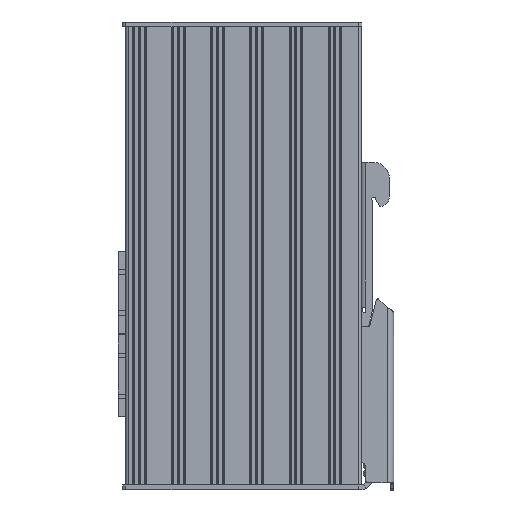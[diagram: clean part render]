
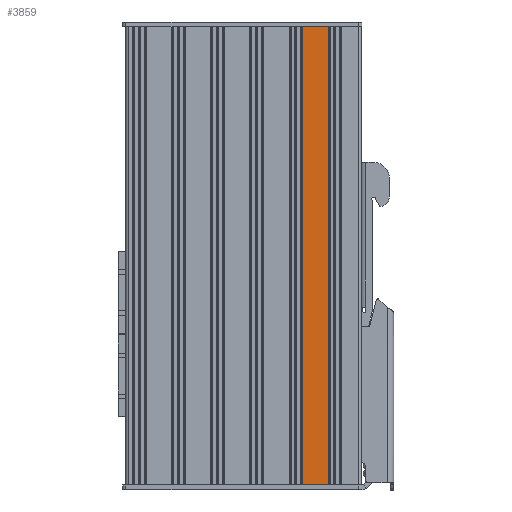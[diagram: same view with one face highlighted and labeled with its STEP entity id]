
A CAD part, left-side view. The second image highlights one B-rep face of the part: STEP entity #3859.
In plain terms, the highlighted planar face has unit normal (-1, 0, 0).
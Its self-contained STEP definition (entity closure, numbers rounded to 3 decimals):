
#3710=CARTESIAN_POINT('',(-12.25,-18.75,-71.));
#3711=VERTEX_POINT('',#3710);
#3718=CARTESIAN_POINT('',(-12.25,-18.75,71.));
#3719=VERTEX_POINT('',#3718);
#3720=CARTESIAN_POINT('',(-12.25,-18.75,71.));
#3721=DIRECTION('',(0.,0.,-1.));
#3722=VECTOR('',#3721,142.);
#3723=LINE('',#3720,#3722);
#3724=EDGE_CURVE('',#3719,#3711,#3723,.T.);
#3743=CARTESIAN_POINT('',(-12.25,-26.675,-71.));
#3744=VERTEX_POINT('',#3743);
#3759=CARTESIAN_POINT('',(-12.25,-26.675,71.));
#3760=VERTEX_POINT('',#3759);
#3767=CARTESIAN_POINT('',(-12.25,-26.675,71.));
#3768=DIRECTION('',(0.,0.,-1.));
#3769=VECTOR('',#3768,142.);
#3770=LINE('',#3767,#3769);
#3771=EDGE_CURVE('',#3760,#3744,#3770,.T.);
#3838=CARTESIAN_POINT('',(-12.25,36.15,71.));
#3839=DIRECTION('',(-1.,0.,0.));
#3840=DIRECTION('',(0.,0.,1.));
#3841=AXIS2_PLACEMENT_3D('',#3838,#3839,#3840);
#3842=PLANE('',#3841);
#3843=ORIENTED_EDGE('',*,*,#3771,.F.);
#3844=CARTESIAN_POINT('',(-12.25,-26.675,71.));
#3845=DIRECTION('',(0.,1.,0.));
#3846=VECTOR('',#3845,7.925);
#3847=LINE('',#3844,#3846);
#3848=EDGE_CURVE('',#3760,#3719,#3847,.T.);
#3849=ORIENTED_EDGE('',*,*,#3848,.T.);
#3850=ORIENTED_EDGE('',*,*,#3724,.T.);
#3851=CARTESIAN_POINT('',(-12.25,-26.675,-71.));
#3852=DIRECTION('',(0.,1.,0.));
#3853=VECTOR('',#3852,7.925);
#3854=LINE('',#3851,#3853);
#3855=EDGE_CURVE('',#3744,#3711,#3854,.T.);
#3856=ORIENTED_EDGE('',*,*,#3855,.F.);
#3857=EDGE_LOOP('',(#3843,#3849,#3850,#3856));
#3858=FACE_BOUND('',#3857,.T.);
#3859=ADVANCED_FACE('',(#3858),#3842,.T.);
